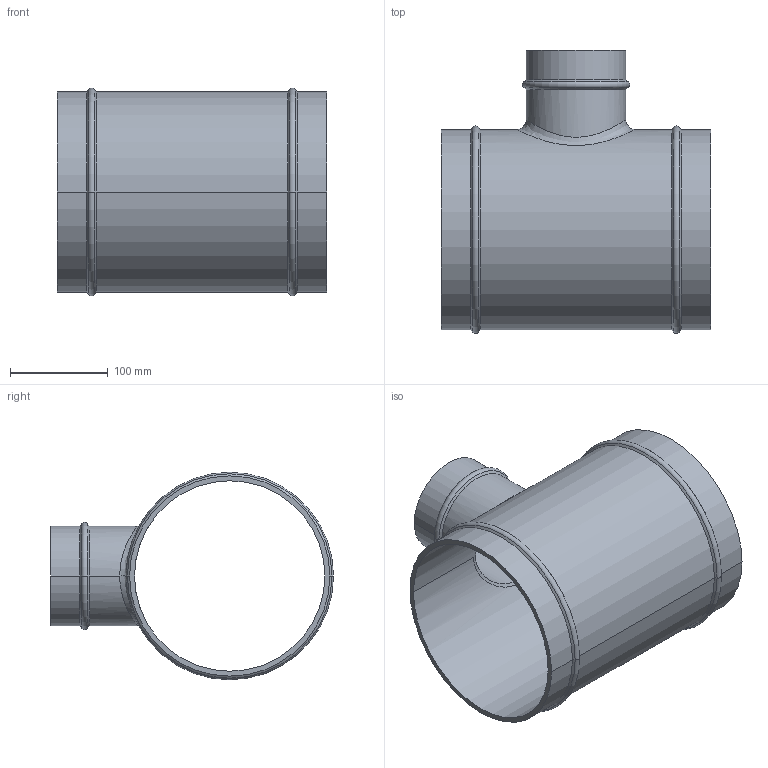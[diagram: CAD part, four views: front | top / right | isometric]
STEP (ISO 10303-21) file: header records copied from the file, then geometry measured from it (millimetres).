
FILE_DESCRIPTION((''),'2;1');
FILE_NAME('2012A80700','2017-05-10T',('Administrator'),(''),'PRO/ENGINEER BY PARAMETRIC TECHNOLOGY CORPORATION, 2009360','PRO/ENGINEER BY PARAMETRIC TECHNOLOGY CORPORATION, 2009360','');
FILE_SCHEMA(('AUTOMOTIVE_DESIGN_CC2 { 1 2 10303 214 -1 1 5 2 }'));
Length unit declared in the file: millimetre
Products named in the file (1): 2012A80700
Bounding box: 275 x 288.99 x 211.97 mm (x, y, z)
Volume: 950214.8 mm3; surface area: 396516.9 mm2
Topology: 1 solids, 1 shells, 37 faces, 79 edges, 44 vertices
Faces by surface type: cylinder 14, cone 12, torus 6, plane 3, bspline 2
Entity records: 1716 total; most frequent: CARTESIAN_POINT 633, DIRECTION 186, ORIENTED_EDGE 158, PRESENTATION_STYLE_ASSIGNMENT 80, STYLED_ITEM 80, AXIS2_PLACEMENT_3D 79, CURVE_STYLE 79, EDGE_CURVE 79
